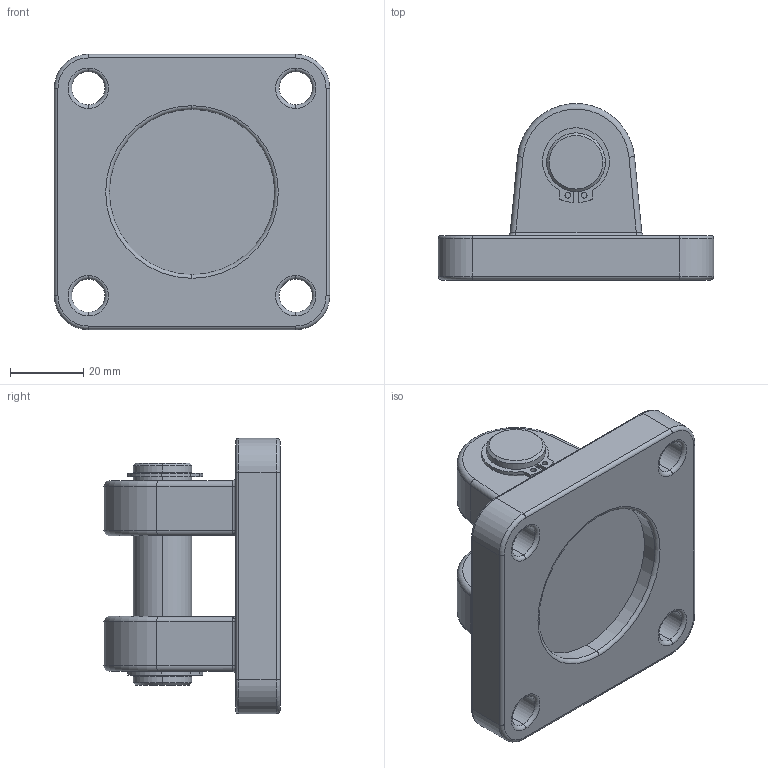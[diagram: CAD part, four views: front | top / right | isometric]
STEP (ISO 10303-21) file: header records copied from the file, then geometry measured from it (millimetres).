
FILE_DESCRIPTION (( 'STEP AP203' ), '1' );
FILE_NAME ('蚾饜极-ISO-CN 63.STEP', '2022-06-23T10:25:55', ( 'Windows' ), ( 'Microsoft' ), 'SwSTEP 2.0', 'SolidWorks 2018', '' );
FILE_SCHEMA (( 'CONFIG_CONTROL_DESIGN' ));
Length unit declared in the file: millimetre
Products named in the file (4): C-16; ISO-CN 63-MP; 蚾饜极-ISO-CN 63; ISO-CN 63-种赽
Assembly tree (4 placements, depth 2):
  蚾饜极-ISO-CN 63
    ISO-CN 63-种赽
    C-16  x2
    ISO-CN 63-MP
Bounding box: 75 x 47.94 x 75 mm (x, y, z)
Volume: 95392.4 mm3; surface area: 26163.6 mm2
Topology: 4 solids, 4 shells, 354 faces, 868 edges, 542 vertices
Faces by surface type: cylinder 99, bspline 99, plane 96, torus 48, cone 12
Entity records: 14952 total; most frequent: CARTESIAN_POINT 7128, ORIENTED_EDGE 1632, DIRECTION 1374, EDGE_CURVE 816, VERTEX_POINT 510, AXIS2_PLACEMENT_3D 508, EDGE_LOOP 372, VECTOR 358
